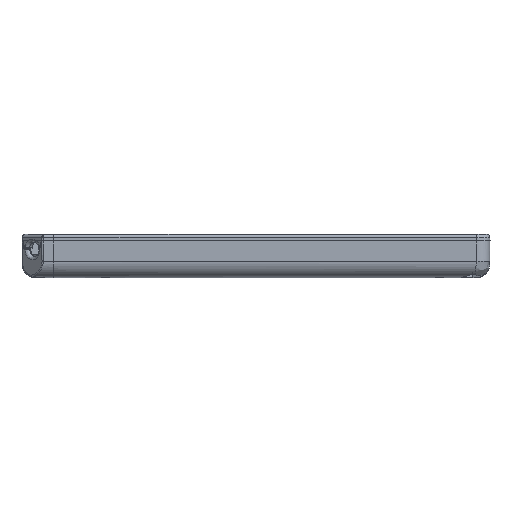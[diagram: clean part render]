
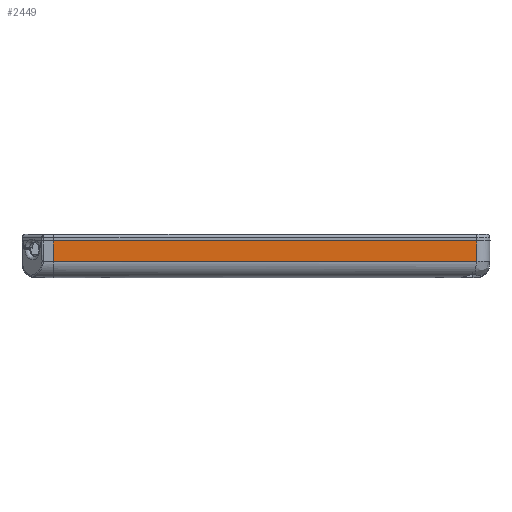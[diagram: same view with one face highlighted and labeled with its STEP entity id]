
A CAD part, left-side view. The second image highlights one B-rep face of the part: STEP entity #2449.
In plain terms, the highlighted planar face has unit normal (-1, 0, -0.018).
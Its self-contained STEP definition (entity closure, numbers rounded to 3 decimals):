
#1106=PLANE('',#30346);
#2449=ADVANCED_FACE('',(#4136),#1106,.T.);
#4136=FACE_OUTER_BOUND('',#5669,.T.);
#5669=EDGE_LOOP('',(#11078,#11079,#11080,#11081,#11082));
#7355=B_SPLINE_CURVE_WITH_KNOTS('',3,(#44431,#44432,#44433,#44434,#44435,
#44436,#44437,#44438,#44439,#44440),.UNSPECIFIED.,.F.,.F.,(4,3,3,4),(0.,
0.185,0.593,1.),.UNSPECIFIED.);
#7356=B_SPLINE_CURVE_WITH_KNOTS('',3,(#44442,#44443,#44444,#44445),
 .UNSPECIFIED.,.F.,.F.,(4,4),(0.,1.),.UNSPECIFIED.);
#11078=ORIENTED_EDGE('',*,*,#20183,.F.);
#11079=ORIENTED_EDGE('',*,*,#20418,.F.);
#11080=ORIENTED_EDGE('',*,*,#20660,.T.);
#11081=ORIENTED_EDGE('',*,*,#20661,.F.);
#11082=ORIENTED_EDGE('',*,*,#20662,.T.);
#17001=VERTEX_POINT('',#43034);
#17002=VERTEX_POINT('',#43036);
#17199=VERTEX_POINT('',#43947);
#17335=VERTEX_POINT('',#44430);
#17336=VERTEX_POINT('',#44441);
#20183=EDGE_CURVE('',#17001,#17002,#23912,.T.);
#20418=EDGE_CURVE('',#17199,#17001,#24049,.T.);
#20660=EDGE_CURVE('',#17199,#17335,#24256,.T.);
#20661=EDGE_CURVE('',#17336,#17335,#7355,.T.);
#20662=EDGE_CURVE('',#17336,#17002,#7356,.T.);
#23912=LINE('',#43035,#27052);
#24049=LINE('',#43948,#27189);
#24256=LINE('',#44429,#27396);
#27052=VECTOR('',#33826,1.);
#27189=VECTOR('',#34209,1.);
#27396=VECTOR('',#34670,1.);
#30346=AXIS2_PLACEMENT_3D('',#44446,#34671,#34672);
#33826=DIRECTION('',(0.,1.,0.));
#34209=DIRECTION('',(0.017,0.017,-1.));
#34670=DIRECTION('',(0.,1.,0.));
#34671=DIRECTION('',(-1.,0.,-0.017));
#34672=DIRECTION('',(0.,1.,0.));
#43034=CARTESIAN_POINT('',(-114.894,-65.894,-8.087));
#43035=CARTESIAN_POINT('',(-114.894,-73.604,-8.087));
#43036=CARTESIAN_POINT('',(-114.894,60.647,-8.087));
#43947=CARTESIAN_POINT('',(-115.,-66.001,-2.));
#43948=CARTESIAN_POINT('',(-115.,-66.001,-2.));
#44429=CARTESIAN_POINT('',(-115.,-108.397,-2.));
#44430=CARTESIAN_POINT('',(-115.,60.647,-2.));
#44431=CARTESIAN_POINT('',(-114.894,60.647,-8.087));
#44432=CARTESIAN_POINT('',(-114.9,60.647,-7.711));
#44433=CARTESIAN_POINT('',(-114.907,60.647,-7.336));
#44434=CARTESIAN_POINT('',(-114.913,60.647,-6.96));
#44435=CARTESIAN_POINT('',(-114.928,60.647,-6.133));
#44436=CARTESIAN_POINT('',(-114.942,60.647,-5.307));
#44437=CARTESIAN_POINT('',(-114.957,60.647,-4.48));
#44438=CARTESIAN_POINT('',(-114.971,60.647,-3.653));
#44439=CARTESIAN_POINT('',(-114.986,60.647,-2.827));
#44440=CARTESIAN_POINT('',(-115.,60.647,-2.));
#44441=CARTESIAN_POINT('',(-114.894,60.647,-8.087));
#44442=CARTESIAN_POINT('',(-114.894,60.647,-8.087));
#44443=CARTESIAN_POINT('',(-114.894,60.647,-8.087));
#44444=CARTESIAN_POINT('',(-114.894,60.647,-8.087));
#44445=CARTESIAN_POINT('',(-114.894,60.647,-8.087));
#44446=CARTESIAN_POINT('',(-115.,-123.604,-2.));
